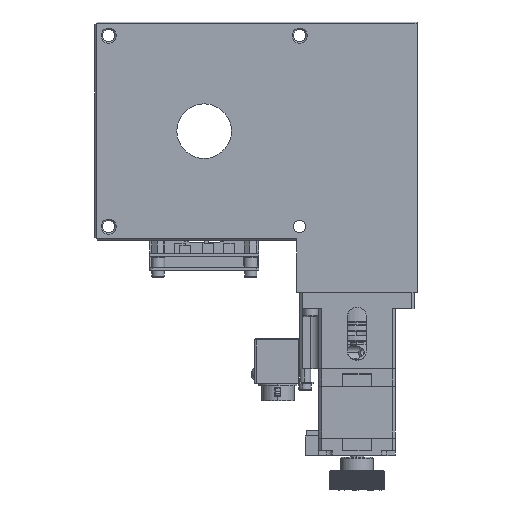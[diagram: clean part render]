
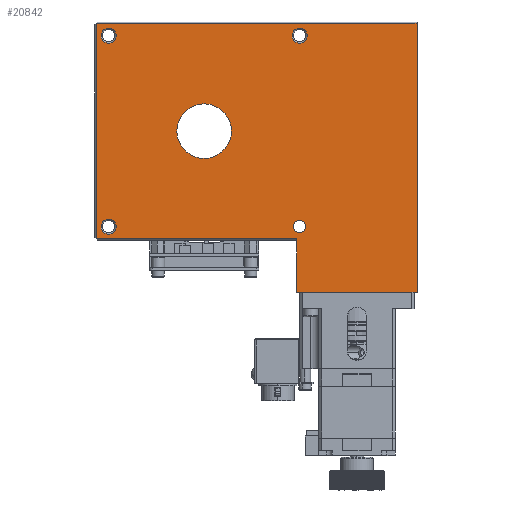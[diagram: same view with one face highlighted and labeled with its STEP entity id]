
A CAD part, front view. The second image highlights one B-rep face of the part: STEP entity #20842.
In plain terms, the highlighted planar face has unit normal (0, -1, 0).
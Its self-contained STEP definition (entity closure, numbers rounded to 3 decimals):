
#360 = DIRECTION ( 'NONE',  ( 0., 0., 1. ) ) ;
#534 = FACE_BOUND ( 'NONE', #24904, .T. ) ;
#1712 = VERTEX_POINT ( 'NONE', #39090 ) ;
#1834 = EDGE_CURVE ( 'NONE', #74956, #26495, #40682, .T. ) ;
#2151 = DIRECTION ( 'NONE',  ( 0., 0., 1. ) ) ;
#3836 = EDGE_CURVE ( 'NONE', #33304, #85540, #51469, .T. ) ;
#4158 = CARTESIAN_POINT ( 'NONE',  ( -112.379, -52.206, -35. ) ) ;
#4181 = CARTESIAN_POINT ( 'NONE',  ( -42.379, -52.206, 32.25 ) ) ;
#4410 = VERTEX_POINT ( 'NONE', #31807 ) ;
#4437 = EDGE_CURVE ( 'NONE', #85540, #33304, #75909, .T. ) ;
#4978 = CARTESIAN_POINT ( 'NONE',  ( -42.379, -52.206, 37.75 ) ) ;
#6360 = CIRCLE ( 'NONE', #30356, 10. ) ;
#6949 = ORIENTED_EDGE ( 'NONE', *, *, #4437, .T. ) ;
#7086 = DIRECTION ( 'NONE',  ( 0., 1., 0. ) ) ;
#7562 = FACE_BOUND ( 'NONE', #105657, .T. ) ;
#8486 = ORIENTED_EDGE ( 'NONE', *, *, #91531, .T. ) ;
#9578 = CARTESIAN_POINT ( 'NONE',  ( -77.379, -52.206, 0. ) ) ;
#9639 = DIRECTION ( 'NONE',  ( 0., 0., 1. ) ) ;
#10157 = AXIS2_PLACEMENT_3D ( 'NONE', #4158, #22371, #30992 ) ;
#10413 = LINE ( 'NONE', #43274, #10820 ) ;
#10820 = VECTOR ( 'NONE', #42185, 1000. ) ;
#13171 = EDGE_CURVE ( 'NONE', #35234, #100011, #101502, .T. ) ;
#14675 = CARTESIAN_POINT ( 'NONE',  ( -42.379, -52.206, -37.25 ) ) ;
#14832 = CARTESIAN_POINT ( 'NONE',  ( -116.879, -52.206, -39.5 ) ) ;
#15599 = FACE_BOUND ( 'NONE', #105120, .T. ) ;
#15901 = DIRECTION ( 'NONE',  ( 0., 0., 1. ) ) ;
#15921 = AXIS2_PLACEMENT_3D ( 'NONE', #44069, #92436, #60154 ) ;
#16632 = EDGE_CURVE ( 'NONE', #100011, #35234, #6360, .T. ) ;
#16653 = FACE_OUTER_BOUND ( 'NONE', #79064, .T. ) ;
#18563 = CIRCLE ( 'NONE', #40944, 2.25 ) ;
#18614 = EDGE_CURVE ( 'NONE', #46650, #43330, #96774, .T. ) ;
#19466 = CIRCLE ( 'NONE', #48848, 2.75 ) ;
#20842 = ADVANCED_FACE ( 'NONE', ( #15599, #16653, #49562, #534, #65655, #7562 ), #91432, .F. ) ;
#21150 = DIRECTION ( 'NONE',  ( 0., 0., 1. ) ) ;
#21814 = LINE ( 'NONE', #54160, #93531 ) ;
#22371 = DIRECTION ( 'NONE',  ( 0., 1., 0. ) ) ;
#24904 = EDGE_LOOP ( 'NONE', ( #29548, #60114 ) ) ;
#26495 = VERTEX_POINT ( 'NONE', #85701 ) ;
#27908 = CARTESIAN_POINT ( 'NONE',  ( -42.379, -52.206, 35. ) ) ;
#28390 = CARTESIAN_POINT ( 'NONE',  ( -77.379, -52.206, 10. ) ) ;
#29037 = CARTESIAN_POINT ( 'NONE',  ( -43.379, -52.206, -59. ) ) ;
#29548 = ORIENTED_EDGE ( 'NONE', *, *, #50628, .T. ) ;
#30173 = ORIENTED_EDGE ( 'NONE', *, *, #3836, .T. ) ;
#30356 = AXIS2_PLACEMENT_3D ( 'NONE', #9578, #75279, #106364 ) ;
#30534 = DIRECTION ( 'NONE',  ( 0., 0., 1. ) ) ;
#30698 = CARTESIAN_POINT ( 'NONE',  ( -42.379, -52.206, -35. ) ) ;
#30992 = DIRECTION ( 'NONE',  ( 0., 0., 1. ) ) ;
#31090 = CARTESIAN_POINT ( 'NONE',  ( -42.379, -52.206, -35. ) ) ;
#31359 = ORIENTED_EDGE ( 'NONE', *, *, #82212, .F. ) ;
#31807 = CARTESIAN_POINT ( 'NONE',  ( -43.379, -52.206, -39.5 ) ) ;
#32527 = ORIENTED_EDGE ( 'NONE', *, *, #95219, .T. ) ;
#33201 = CARTESIAN_POINT ( 'NONE',  ( -116.879, -52.206, 39.5 ) ) ;
#33304 = VERTEX_POINT ( 'NONE', #66263 ) ;
#34712 = ORIENTED_EDGE ( 'NONE', *, *, #45253, .T. ) ;
#35234 = VERTEX_POINT ( 'NONE', #28390 ) ;
#36255 = CARTESIAN_POINT ( 'NONE',  ( -77.379, -52.206, 0. ) ) ;
#36503 = AXIS2_PLACEMENT_3D ( 'NONE', #27908, #86069, #2151 ) ;
#38775 = LINE ( 'NONE', #47424, #88482 ) ;
#39090 = CARTESIAN_POINT ( 'NONE',  ( -42.379, -52.206, -32.75 ) ) ;
#39273 = EDGE_CURVE ( 'NONE', #76900, #46650, #38775, .T. ) ;
#39517 = ORIENTED_EDGE ( 'NONE', *, *, #39273, .F. ) ;
#39901 = DIRECTION ( 'NONE',  ( 0., 0., 1. ) ) ;
#40682 = CIRCLE ( 'NONE', #100701, 2.75 ) ;
#40944 = AXIS2_PLACEMENT_3D ( 'NONE', #30698, #87812, #94214 ) ;
#42185 = DIRECTION ( 'NONE',  ( -1., 0., 0. ) ) ;
#42305 = VERTEX_POINT ( 'NONE', #96674 ) ;
#42666 = ORIENTED_EDGE ( 'NONE', *, *, #52638, .T. ) ;
#42850 = CARTESIAN_POINT ( 'NONE',  ( 0.621, -52.206, 0. ) ) ;
#43274 = CARTESIAN_POINT ( 'NONE',  ( -77.379, -52.206, -59. ) ) ;
#43330 = VERTEX_POINT ( 'NONE', #73229 ) ;
#44069 = CARTESIAN_POINT ( 'NONE',  ( -112.379, -52.206, 35. ) ) ;
#45253 = EDGE_CURVE ( 'NONE', #58190, #85819, #88088, .T. ) ;
#46453 = EDGE_LOOP ( 'NONE', ( #30173, #6949 ) ) ;
#46650 = VERTEX_POINT ( 'NONE', #33201 ) ;
#47043 = ORIENTED_EDGE ( 'NONE', *, *, #87806, .T. ) ;
#47171 = ORIENTED_EDGE ( 'NONE', *, *, #16632, .F. ) ;
#47424 = CARTESIAN_POINT ( 'NONE',  ( -116.879, -52.206, 0. ) ) ;
#48446 = CARTESIAN_POINT ( 'NONE',  ( -77.379, -52.206, 39.5 ) ) ;
#48630 = CIRCLE ( 'NONE', #15921, 2.75 ) ;
#48848 = AXIS2_PLACEMENT_3D ( 'NONE', #72343, #94891, #21150 ) ;
#49562 = FACE_BOUND ( 'NONE', #46453, .T. ) ;
#50086 = DIRECTION ( 'NONE',  ( 0., 1., 0. ) ) ;
#50628 = EDGE_CURVE ( 'NONE', #26495, #74956, #48630, .T. ) ;
#50867 = DIRECTION ( 'NONE',  ( 0., -1., 0. ) ) ;
#51469 = CIRCLE ( 'NONE', #10157, 2.75 ) ;
#52638 = EDGE_CURVE ( 'NONE', #1712, #91687, #64692, .T. ) ;
#53758 = ORIENTED_EDGE ( 'NONE', *, *, #65040, .T. ) ;
#54160 = CARTESIAN_POINT ( 'NONE',  ( -43.379, -52.206, 0. ) ) ;
#57580 = CARTESIAN_POINT ( 'NONE',  ( -77.379, -52.206, 0. ) ) ;
#58190 = VERTEX_POINT ( 'NONE', #4978 ) ;
#58484 = CARTESIAN_POINT ( 'NONE',  ( -77.379, -52.206, -10. ) ) ;
#58833 = CARTESIAN_POINT ( 'NONE',  ( -112.379, -52.206, 37.75 ) ) ;
#60114 = ORIENTED_EDGE ( 'NONE', *, *, #1834, .T. ) ;
#60154 = DIRECTION ( 'NONE',  ( 0., 0., 1. ) ) ;
#61539 = EDGE_LOOP ( 'NONE', ( #8486, #34712 ) ) ;
#62417 = DIRECTION ( 'NONE',  ( 0., 0., 1. ) ) ;
#62648 = VERTEX_POINT ( 'NONE', #29037 ) ;
#63114 = EDGE_CURVE ( 'NONE', #4410, #76900, #100177, .T. ) ;
#64692 = CIRCLE ( 'NONE', #78491, 2.25 ) ;
#64704 = ORIENTED_EDGE ( 'NONE', *, *, #13171, .F. ) ;
#64881 = CARTESIAN_POINT ( 'NONE',  ( -112.379, -52.206, 35. ) ) ;
#65040 = EDGE_CURVE ( 'NONE', #4410, #62648, #21814, .T. ) ;
#65655 = FACE_BOUND ( 'NONE', #61539, .T. ) ;
#66263 = CARTESIAN_POINT ( 'NONE',  ( -112.379, -52.206, -37.75 ) ) ;
#66539 = LINE ( 'NONE', #42850, #86003 ) ;
#69598 = DIRECTION ( 'NONE',  ( 0., 0., 1. ) ) ;
#70008 = VECTOR ( 'NONE', #94814, 1000. ) ;
#71357 = DIRECTION ( 'NONE',  ( 0., 0., -1. ) ) ;
#72343 = CARTESIAN_POINT ( 'NONE',  ( -42.379, -52.206, 35. ) ) ;
#73229 = CARTESIAN_POINT ( 'NONE',  ( 0.621, -52.206, 39.5 ) ) ;
#74956 = VERTEX_POINT ( 'NONE', #58833 ) ;
#75168 = DIRECTION ( 'NONE',  ( 1., 0., 0. ) ) ;
#75279 = DIRECTION ( 'NONE',  ( 0., -1., 0. ) ) ;
#75909 = CIRCLE ( 'NONE', #96421, 2.75 ) ;
#76900 = VERTEX_POINT ( 'NONE', #14832 ) ;
#78186 = ORIENTED_EDGE ( 'NONE', *, *, #63114, .F. ) ;
#78491 = AXIS2_PLACEMENT_3D ( 'NONE', #31090, #80639, #30534 ) ;
#79064 = EDGE_LOOP ( 'NONE', ( #47043, #92495, #39517, #78186, #53758, #31359 ) ) ;
#80639 = DIRECTION ( 'NONE',  ( 0., 1., 0. ) ) ;
#80842 = CARTESIAN_POINT ( 'NONE',  ( -112.379, -52.206, -35. ) ) ;
#82212 = EDGE_CURVE ( 'NONE', #42305, #62648, #10413, .T. ) ;
#85181 = CARTESIAN_POINT ( 'NONE',  ( -77.379, -52.206, -39.5 ) ) ;
#85540 = VERTEX_POINT ( 'NONE', #90301 ) ;
#85701 = CARTESIAN_POINT ( 'NONE',  ( -112.379, -52.206, 32.25 ) ) ;
#85819 = VERTEX_POINT ( 'NONE', #4181 ) ;
#86003 = VECTOR ( 'NONE', #360, 1000. ) ;
#86069 = DIRECTION ( 'NONE',  ( 0., 1., 0. ) ) ;
#86196 = AXIS2_PLACEMENT_3D ( 'NONE', #36255, #50867, #69598 ) ;
#87806 = EDGE_CURVE ( 'NONE', #42305, #43330, #66539, .T. ) ;
#87812 = DIRECTION ( 'NONE',  ( 0., 1., 0. ) ) ;
#88088 = CIRCLE ( 'NONE', #36503, 2.75 ) ;
#88482 = VECTOR ( 'NONE', #62417, 1000. ) ;
#90301 = CARTESIAN_POINT ( 'NONE',  ( -112.379, -52.206, -32.25 ) ) ;
#91432 = PLANE ( 'NONE',  #91787 ) ;
#91531 = EDGE_CURVE ( 'NONE', #85819, #58190, #19466, .T. ) ;
#91687 = VERTEX_POINT ( 'NONE', #14675 ) ;
#91787 = AXIS2_PLACEMENT_3D ( 'NONE', #57580, #50086, #9639 ) ;
#92436 = DIRECTION ( 'NONE',  ( 0., 1., 0. ) ) ;
#92495 = ORIENTED_EDGE ( 'NONE', *, *, #18614, .F. ) ;
#93531 = VECTOR ( 'NONE', #71357, 1000. ) ;
#94214 = DIRECTION ( 'NONE',  ( 0., 0., 1. ) ) ;
#94814 = DIRECTION ( 'NONE',  ( -1., 0., 0. ) ) ;
#94891 = DIRECTION ( 'NONE',  ( 0., 1., 0. ) ) ;
#95219 = EDGE_CURVE ( 'NONE', #91687, #1712, #18563, .T. ) ;
#96421 = AXIS2_PLACEMENT_3D ( 'NONE', #80842, #7086, #39901 ) ;
#96674 = CARTESIAN_POINT ( 'NONE',  ( 0.621, -52.206, -59. ) ) ;
#96774 = LINE ( 'NONE', #48446, #97155 ) ;
#97155 = VECTOR ( 'NONE', #75168, 1000. ) ;
#97651 = DIRECTION ( 'NONE',  ( 0., 1., 0. ) ) ;
#100011 = VERTEX_POINT ( 'NONE', #58484 ) ;
#100177 = LINE ( 'NONE', #85181, #70008 ) ;
#100701 = AXIS2_PLACEMENT_3D ( 'NONE', #64881, #97651, #15901 ) ;
#101502 = CIRCLE ( 'NONE', #86196, 10. ) ;
#105120 = EDGE_LOOP ( 'NONE', ( #42666, #32527 ) ) ;
#105657 = EDGE_LOOP ( 'NONE', ( #64704, #47171 ) ) ;
#106364 = DIRECTION ( 'NONE',  ( 0., 0., 1. ) ) ;
